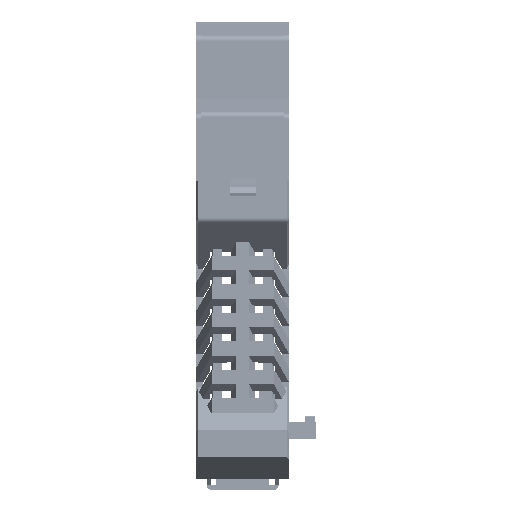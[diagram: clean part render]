
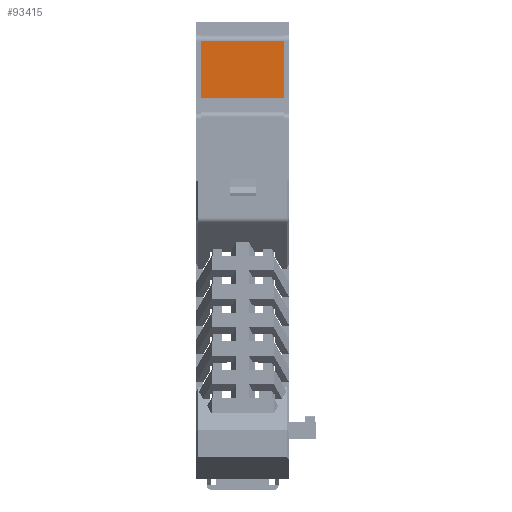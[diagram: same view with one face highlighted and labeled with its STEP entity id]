
A CAD part, front view. The second image highlights one B-rep face of the part: STEP entity #93415.
In plain terms, the highlighted planar face has unit normal (0, -1, 0.001) as drawn and (-1, 0, 0) by its records, which use the part's own axes.
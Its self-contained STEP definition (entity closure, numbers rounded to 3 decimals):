
#93415=ADVANCED_FACE('',(#166570),#166572,.T.);
#166570=FACE_BOUND('',#166571,.T.);
#166571=EDGE_LOOP('',(#226090,#226091,#226092,#226093));
#166572=PLANE('',#166573);
#166573=AXIS2_PLACEMENT_3D('',#166574,#166575,#166576);
#166574=CARTESIAN_POINT('',(-38.8,110.338,32.65));
#166575=DIRECTION('',(-1.,0.,0.));
#166576=DIRECTION('',(0.,-1.,0.));
#226090=ORIENTED_EDGE('',*,*,#255286,.F.);
#226091=ORIENTED_EDGE('',*,*,#255287,.T.);
#226092=ORIENTED_EDGE('',*,*,#255253,.F.);
#226093=ORIENTED_EDGE('',*,*,#255288,.F.);
#255253=EDGE_CURVE('',#303608,#303610,#303611,.T.);
#255286=EDGE_CURVE('',#303669,#303670,#303671,.T.);
#255287=EDGE_CURVE('',#303669,#303610,#303672,.T.);
#255288=EDGE_CURVE('',#303670,#303608,#303673,.T.);
#303608=VERTEX_POINT('',#420397);
#303610=VERTEX_POINT('',#420401);
#303611=LINE('',#420402,#420403);
#303669=VERTEX_POINT('',#420526);
#303670=VERTEX_POINT('',#420527);
#303671=LINE('',#420528,#420529);
#303672=LINE('',#420531,#420532);
#303673=LINE('',#420534,#420535);
#420397=CARTESIAN_POINT('',(-38.8,96.407,32.6));
#420401=CARTESIAN_POINT('',(-38.8,96.407,12.6));
#420402=CARTESIAN_POINT('',(-38.8,96.407,32.6));
#420403=VECTOR('',#420404,1.);
#420404=DIRECTION('',(0.,0.,-1.));
#420526=CARTESIAN_POINT('',(-38.8,110.249,12.6));
#420527=CARTESIAN_POINT('',(-38.8,110.249,32.6));
#420528=CARTESIAN_POINT('',(-38.8,110.249,12.6));
#420529=VECTOR('',#420530,1.);
#420530=DIRECTION('',(0.,0.,1.));
#420531=CARTESIAN_POINT('',(-38.8,110.249,12.6));
#420532=VECTOR('',#420533,1.);
#420533=DIRECTION('',(0.,-1.,0.));
#420534=CARTESIAN_POINT('',(-38.8,110.249,32.6));
#420535=VECTOR('',#420536,1.);
#420536=DIRECTION('',(0.,-1.,0.));
